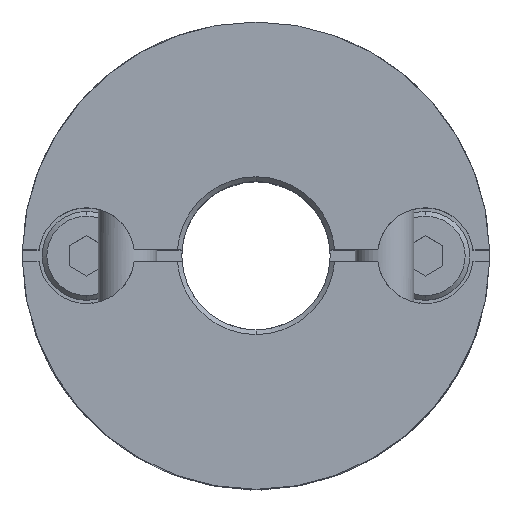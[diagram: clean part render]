
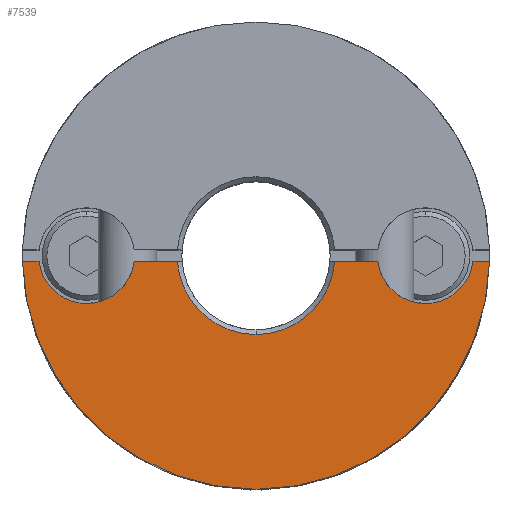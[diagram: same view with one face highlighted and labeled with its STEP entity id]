
A CAD part, top view. The second image highlights one B-rep face of the part: STEP entity #7539.
In plain terms, the highlighted planar face has unit normal (0, 0, 1).
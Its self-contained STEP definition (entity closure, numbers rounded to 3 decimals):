
#809=CARTESIAN_POINT('',(0.,-10.,9.4));
#810=VERTEX_POINT('',#809);
#817=CARTESIAN_POINT('',(-9.997,-0.25,9.4));
#818=VERTEX_POINT('',#817);
#819=CARTESIAN_POINT('',(0.,0.,9.4));
#820=DIRECTION('',(0.0,0.0,-1.0));
#821=DIRECTION('',(0.0,1.0,0.0));
#822=AXIS2_PLACEMENT_3D('',#819,#820,#821);
#823=CIRCLE('',#822,10.0);
#824=EDGE_CURVE('',#810,#818,#823,.T.);
#1024=CARTESIAN_POINT('',(0.,-3.375,9.4));
#1025=VERTEX_POINT('',#1024);
#1033=CARTESIAN_POINT('',(-3.366,-0.25,9.4));
#1034=VERTEX_POINT('',#1033);
#1048=CARTESIAN_POINT('',(0.,0.,9.4));
#1049=DIRECTION('',(0.0,0.0,1.0));
#1050=DIRECTION('',(0.0,-1.0,0.0));
#1051=AXIS2_PLACEMENT_3D('',#1048,#1049,#1050);
#1052=CIRCLE('',#1051,3.375);
#1053=EDGE_CURVE('',#1034,#1025,#1052,.T.);
#1345=CARTESIAN_POINT('',(-7.25,-2.05,9.4));
#1346=VERTEX_POINT('',#1345);
#1362=CARTESIAN_POINT('',(-9.285,-0.25,9.4));
#1363=VERTEX_POINT('',#1362);
#1370=CARTESIAN_POINT('',(-7.25,0.,9.4));
#1371=DIRECTION('',(0.0,0.0,-1.0));
#1372=DIRECTION('',(0.0,1.0,0.0));
#1373=AXIS2_PLACEMENT_3D('',#1370,#1371,#1372);
#1374=CIRCLE('',#1373,2.05);
#1375=EDGE_CURVE('',#1346,#1363,#1374,.T.);
#1693=CARTESIAN_POINT('',(7.25,-2.05,9.4));
#1694=VERTEX_POINT('',#1693);
#1772=CARTESIAN_POINT('',(5.215,-0.25,9.4));
#1773=VERTEX_POINT('',#1772);
#1780=CARTESIAN_POINT('',(7.25,0.,9.4));
#1781=DIRECTION('',(0.0,0.0,-1.0));
#1782=DIRECTION('',(0.0,1.0,0.0));
#1783=AXIS2_PLACEMENT_3D('',#1780,#1781,#1782);
#1784=CIRCLE('',#1783,2.05);
#1785=EDGE_CURVE('',#1694,#1773,#1784,.T.);
#5992=CARTESIAN_POINT('',(9.285,-0.25,9.4));
#5993=VERTEX_POINT('',#5992);
#5994=CARTESIAN_POINT('',(7.25,0.,9.4));
#5995=DIRECTION('',(0.0,0.0,-1.0));
#5996=DIRECTION('',(0.0,1.0,0.0));
#5997=AXIS2_PLACEMENT_3D('',#5994,#5995,#5996);
#5998=CIRCLE('',#5997,2.05);
#5999=EDGE_CURVE('',#5993,#1694,#5998,.T.);
#6444=CARTESIAN_POINT('',(-5.215,-0.25,9.4));
#6445=VERTEX_POINT('',#6444);
#6446=CARTESIAN_POINT('',(-7.25,0.,9.4));
#6447=DIRECTION('',(0.0,0.0,-1.0));
#6448=DIRECTION('',(0.0,1.0,0.0));
#6449=AXIS2_PLACEMENT_3D('',#6446,#6447,#6448);
#6450=CIRCLE('',#6449,2.05);
#6451=EDGE_CURVE('',#6445,#1346,#6450,.T.);
#6574=CARTESIAN_POINT('',(-3.366,-0.25,9.4));
#6575=DIRECTION('',(-1.0,0.0,0.0));
#6576=VECTOR('',#6575,1.85);
#6577=LINE('',#6574,#6576);
#6578=EDGE_CURVE('',#1034,#6445,#6577,.T.);
#6642=CARTESIAN_POINT('',(3.366,-0.25,9.4));
#6643=VERTEX_POINT('',#6642);
#6657=CARTESIAN_POINT('',(5.215,-0.25,9.4));
#6658=DIRECTION('',(-1.0,0.0,0.0));
#6659=VECTOR('',#6658,1.85);
#6660=LINE('',#6657,#6659);
#6661=EDGE_CURVE('',#1773,#6643,#6660,.T.);
#7317=CARTESIAN_POINT('',(9.997,-0.25,9.4));
#7318=VERTEX_POINT('',#7317);
#7319=CARTESIAN_POINT('',(9.997,-0.25,9.4));
#7320=DIRECTION('',(-1.0,0.0,0.0));
#7321=VECTOR('',#7320,0.712);
#7322=LINE('',#7319,#7321);
#7323=EDGE_CURVE('',#7318,#5993,#7322,.T.);
#7423=CARTESIAN_POINT('',(-9.285,-0.25,9.4));
#7424=DIRECTION('',(-1.0,0.0,0.0));
#7425=VECTOR('',#7424,0.712);
#7426=LINE('',#7423,#7425);
#7427=EDGE_CURVE('',#1363,#818,#7426,.T.);
#7508=CARTESIAN_POINT('',(0.,0.909,9.4));
#7509=DIRECTION('',(0.0,0.0,1.0));
#7510=DIRECTION('',(0.0,1.0,0.0));
#7511=AXIS2_PLACEMENT_3D('',#7508,#7509,#7510);
#7512=PLANE('',#7511);
#7513=ORIENTED_EDGE('',*,*,#5999,.T.);
#7514=ORIENTED_EDGE('',*,*,#1785,.T.);
#7515=ORIENTED_EDGE('',*,*,#6661,.T.);
#7516=CARTESIAN_POINT('',(0.,0.,9.4));
#7517=DIRECTION('',(0.0,0.0,1.0));
#7518=DIRECTION('',(0.0,-1.0,0.0));
#7519=AXIS2_PLACEMENT_3D('',#7516,#7517,#7518);
#7520=CIRCLE('',#7519,3.375);
#7521=EDGE_CURVE('',#1025,#6643,#7520,.T.);
#7522=ORIENTED_EDGE('',*,*,#7521,.F.);
#7523=ORIENTED_EDGE('',*,*,#1053,.F.);
#7524=ORIENTED_EDGE('',*,*,#6578,.T.);
#7525=ORIENTED_EDGE('',*,*,#6451,.T.);
#7526=ORIENTED_EDGE('',*,*,#1375,.T.);
#7527=ORIENTED_EDGE('',*,*,#7427,.T.);
#7528=ORIENTED_EDGE('',*,*,#824,.F.);
#7529=CARTESIAN_POINT('',(0.,0.,9.4));
#7530=DIRECTION('',(0.0,0.0,-1.0));
#7531=DIRECTION('',(0.0,1.0,0.0));
#7532=AXIS2_PLACEMENT_3D('',#7529,#7530,#7531);
#7533=CIRCLE('',#7532,10.0);
#7534=EDGE_CURVE('',#7318,#810,#7533,.T.);
#7535=ORIENTED_EDGE('',*,*,#7534,.F.);
#7536=ORIENTED_EDGE('',*,*,#7323,.T.);
#7537=EDGE_LOOP('',(#7513,#7514,#7515,#7522,#7523,#7524,#7525,#7526,#7527,#7528,#7535,#7536));
#7538=FACE_OUTER_BOUND('',#7537,.T.);
#7539=ADVANCED_FACE('',(#7538),#7512,.T.);
